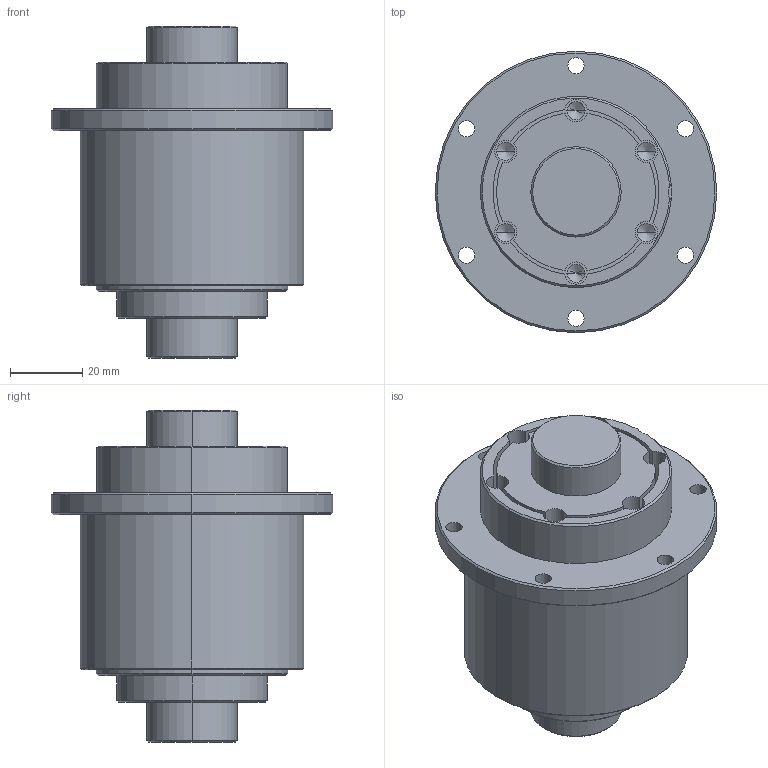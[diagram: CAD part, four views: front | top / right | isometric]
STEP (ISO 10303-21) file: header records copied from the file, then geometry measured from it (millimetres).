
FILE_DESCRIPTION (( 'STEP AP203' ), '1' );
FILE_NAME ('RLBF025T4N.STEP', '2026-05-27T07:31:06', ( '' ), ( '' ), 'SwSTEP 2.0', 'SolidWorks 2024', '' );
FILE_SCHEMA (( 'CONFIG_CONTROL_DESIGN' ));
Length unit declared in the file: millimetre
Products named in the file (1): RLBF025T4N
Bounding box: 78 x 78 x 92 mm (x, y, z)
Volume: 206340.3 mm3; surface area: 41643.5 mm2
Topology: 3 solids, 3 shells, 113 faces, 277 edges, 169 vertices
Faces by surface type: cylinder 73, cone 28, plane 12
Entity records: 3404 total; most frequent: DIRECTION 653, CARTESIAN_POINT 554, ORIENTED_EDGE 530, AXIS2_PLACEMENT_3D 276, EDGE_CURVE 265, VERTEX_POINT 169, CIRCLE 162, EDGE_LOOP 140
